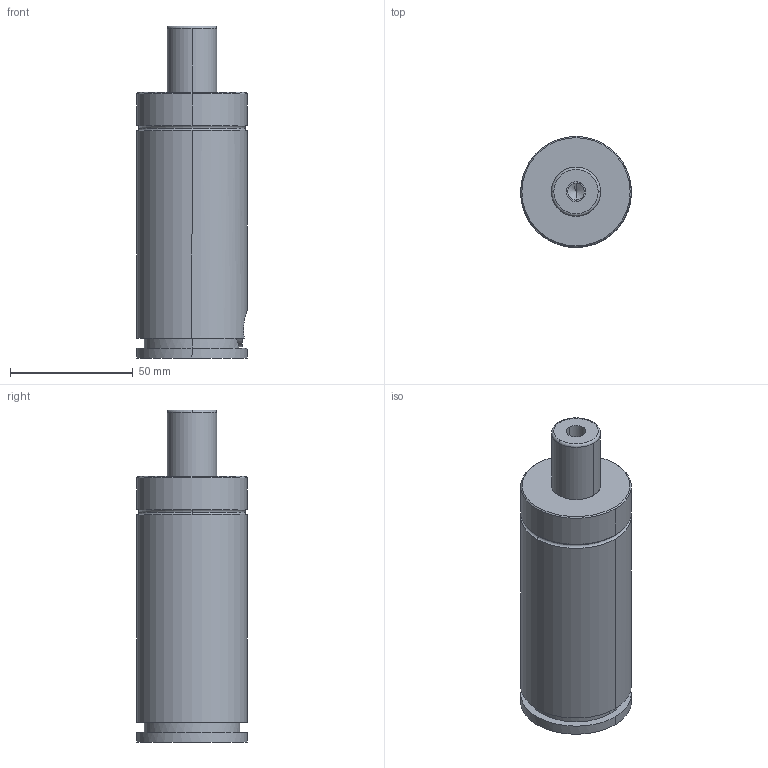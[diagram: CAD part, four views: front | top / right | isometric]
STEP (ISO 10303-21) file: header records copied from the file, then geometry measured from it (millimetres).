
FILE_DESCRIPTION(('CATIA V5 STEP Exchange'),'2;1');
FILE_NAME('W:\CATALOGO GENERAL 2018\FICHEROS CAD\004-TPS\TPS 500.2\TPS 500x25.2.stp','2017-10-31T14:27:26+00:00',('none'),('none'),'CATIA Version 5 Release 17 (IN-10)','CATIA V5 STEP AP203','none');
FILE_SCHEMA(('CONFIG_CONTROL_DESIGN'));
Length unit declared in the file: millimetre
Products named in the file (1): TPS 500x25.2
Bounding box: 45 x 45 x 135 mm (x, y, z)
Volume: 168014.1 mm3; surface area: 25332.3 mm2
Topology: 3 solids, 3 shells, 63 faces, 149 edges, 98 vertices
Faces by surface type: cylinder 29, plane 22, torus 6, cone 6
Entity records: 2239 total; most frequent: CARTESIAN_POINT 817, ORIENTED_EDGE 294, DIRECTION 239, EDGE_CURVE 147, AXIS2_PLACEMENT_3D 121, VERTEX_POINT 98, EDGE_LOOP 71, ADVANCED_FACE 63
